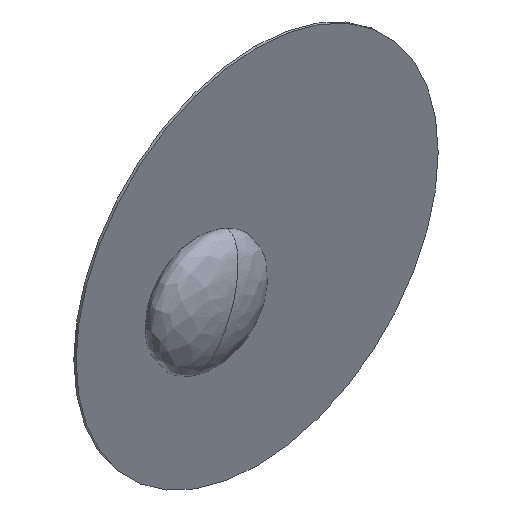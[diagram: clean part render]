
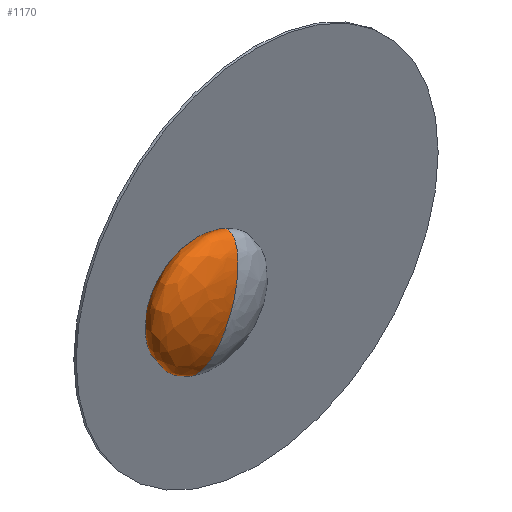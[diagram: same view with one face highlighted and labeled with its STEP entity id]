
A CAD part, isometric view. The second image highlights one B-rep face of the part: STEP entity #1170.
In plain terms, the highlighted free-form (B-spline) face has degree [3, 3] with [4, 4] control points.
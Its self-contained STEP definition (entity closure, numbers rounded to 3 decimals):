
#83 = VERTEX_POINT ( 'NONE', #1293 ) ;
#100 = CARTESIAN_POINT ( 'NONE',  ( 70.82, -50., -141.641 ) ) ;
#173 =( BOUNDED_CURVE ( )  B_SPLINE_CURVE ( 3, ( #8437, #5853, #6376, #517 ),
 .UNSPECIFIED., .F., .F. ) 
 B_SPLINE_CURVE_WITH_KNOTS ( ( 4, 4 ),
 ( 5.64, 7.854 ),
 .UNSPECIFIED. ) 
 CURVE ( )  GEOMETRIC_REPRESENTATION_ITEM ( )  RATIONAL_B_SPLINE_CURVE ( ( 1., 0.631, 0.631, 1. ) ) 
 REPRESENTATION_ITEM ( '' )  );
#517 = CARTESIAN_POINT ( 'NONE',  ( 0., -50., 0. ) ) ;
#675 = CARTESIAN_POINT ( 'NONE',  ( 0., 0., 0. ) ) ;
#1170 = ADVANCED_FACE ( 'NONE', ( #2659 ), #3065, .T. ) ;
#1293 = CARTESIAN_POINT ( 'NONE',  ( 60., 0., 0. ) ) ;
#1772 = ORIENTED_EDGE ( 'NONE', *, *, #3212, .F. ) ;
#1949 = DIRECTION ( 'NONE',  ( 0., 1., 0. ) ) ;
#1973 = CARTESIAN_POINT ( 'NONE',  ( 60., 0., 0. ) ) ;
#2012 = CARTESIAN_POINT ( 'NONE',  ( 0., -50., 0. ) ) ;
#2097 = CARTESIAN_POINT ( 'NONE',  ( -102.492, -23.607, 0. ) ) ;
#2160 = EDGE_CURVE ( 'NONE', #83, #4174, #8362, .T. ) ;
#2422 = ORIENTED_EDGE ( 'NONE', *, *, #2160, .F. ) ;
#2487 = EDGE_CURVE ( 'NONE', #83, #4885, #7770, .T. ) ;
#2659 = FACE_OUTER_BOUND ( 'NONE', #6714, .T. ) ;
#2707 = CARTESIAN_POINT ( 'NONE',  ( 0., -50., 0. ) ) ;
#3065 =( BOUNDED_SURFACE ( )  B_SPLINE_SURFACE ( 3, 3, ( 
 ( #1973, #6637, #4527, #3898 ),
 ( #7150, #5816, #3262, #2097 ),
 ( #3218, #100, #5856, #4574 ),
 ( #2012, #6513, #3935, #4615 ) ),
 .UNSPECIFIED., .F., .F., .F. ) 
 B_SPLINE_SURFACE_WITH_KNOTS ( ( 4, 4 ),
 ( 4, 4 ),
 ( 0., 1. ),
 ( 0., 1. ),
 .UNSPECIFIED. ) 
 GEOMETRIC_REPRESENTATION_ITEM ( )  RATIONAL_B_SPLINE_SURFACE ( (
 ( 1., 0.333, 0.333, 1.),
 ( 0.631, 0.21, 0.21, 0.631),
 ( 0.631, 0.21, 0.21, 0.631),
 ( 1., 0.333, 0.333, 1.) ) ) 
 REPRESENTATION_ITEM ( '' )  SURFACE ( )  );
#3212 = EDGE_CURVE ( 'NONE', #4174, #4885, #173, .T. ) ;
#3218 = CARTESIAN_POINT ( 'NONE',  ( 70.82, -50., 0. ) ) ;
#3262 = CARTESIAN_POINT ( 'NONE',  ( -102.492, -23.607, -204.984 ) ) ;
#3898 = CARTESIAN_POINT ( 'NONE',  ( -60., 0., 0. ) ) ;
#3935 = CARTESIAN_POINT ( 'NONE',  ( 0., -50., 0. ) ) ;
#3947 = CARTESIAN_POINT ( 'NONE',  ( 60., 0., 0. ) ) ;
#4174 = VERTEX_POINT ( 'NONE', #6311 ) ;
#4527 = CARTESIAN_POINT ( 'NONE',  ( -60., 0., -120. ) ) ;
#4537 = CARTESIAN_POINT ( 'NONE',  ( 102.492, -23.607, 0. ) ) ;
#4574 = CARTESIAN_POINT ( 'NONE',  ( -70.82, -50., 0. ) ) ;
#4615 = CARTESIAN_POINT ( 'NONE',  ( 0., -50., 0. ) ) ;
#4623 = CARTESIAN_POINT ( 'NONE',  ( 70.82, -50., 0. ) ) ;
#4885 = VERTEX_POINT ( 'NONE', #2707 ) ;
#5816 = CARTESIAN_POINT ( 'NONE',  ( 102.492, -23.607, -204.984 ) ) ;
#5853 = CARTESIAN_POINT ( 'NONE',  ( -102.492, -23.607, 0. ) ) ;
#5856 = CARTESIAN_POINT ( 'NONE',  ( -70.82, -50., -141.641 ) ) ;
#6311 = CARTESIAN_POINT ( 'NONE',  ( -60., 0., 0. ) ) ;
#6376 = CARTESIAN_POINT ( 'NONE',  ( -70.82, -50., 0. ) ) ;
#6513 = CARTESIAN_POINT ( 'NONE',  ( 0., -50., 0. ) ) ;
#6637 = CARTESIAN_POINT ( 'NONE',  ( 60., 0., -120. ) ) ;
#6714 = EDGE_LOOP ( 'NONE', ( #2422, #8089, #1772 ) ) ;
#7150 = CARTESIAN_POINT ( 'NONE',  ( 102.492, -23.607, 0. ) ) ;
#7770 =( BOUNDED_CURVE ( )  B_SPLINE_CURVE ( 3, ( #3947, #4537, #4623, #7933 ),
 .UNSPECIFIED., .F., .F. ) 
 B_SPLINE_CURVE_WITH_KNOTS ( ( 4, 4 ),
 ( 5.64, 7.854 ),
 .UNSPECIFIED. ) 
 CURVE ( )  GEOMETRIC_REPRESENTATION_ITEM ( )  RATIONAL_B_SPLINE_CURVE ( ( 1., 0.631, 0.631, 1. ) ) 
 REPRESENTATION_ITEM ( '' )  );
#7862 = DIRECTION ( 'NONE',  ( -1., 0., 0. ) ) ;
#7933 = CARTESIAN_POINT ( 'NONE',  ( 0., -50., 0. ) ) ;
#8087 = AXIS2_PLACEMENT_3D ( 'NONE', #675, #1949, #7862 ) ;
#8089 = ORIENTED_EDGE ( 'NONE', *, *, #2487, .T. ) ;
#8362 = CIRCLE ( 'NONE', #8087, 60. ) ;
#8437 = CARTESIAN_POINT ( 'NONE',  ( -60., 0., 0. ) ) ;
